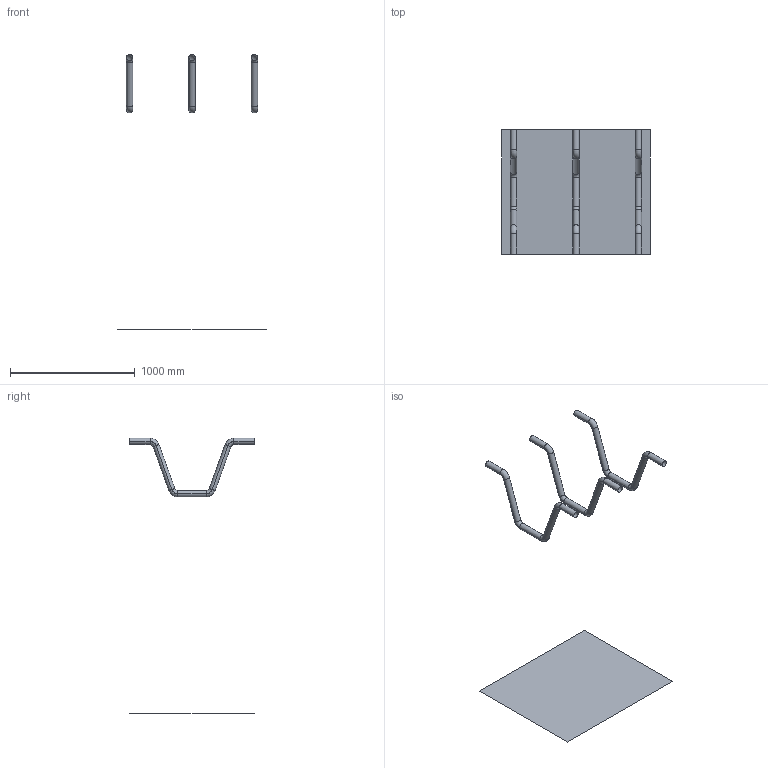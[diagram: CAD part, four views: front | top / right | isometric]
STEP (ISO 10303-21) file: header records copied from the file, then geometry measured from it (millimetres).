
FILE_DESCRIPTION(('CATIA V5 STEP Exchange'),'2;1');
FILE_NAME('C:\_Andres\UNIVERSIDAD\IQS\ASIGNATURAS\DAO\EXF\EXF-16172c\2inicio\Marra-Lopez_Llovet_Ej08_v19.stp','2017-03-05T21:54:53+00:00',('none'),('none'),'CATIA Version 5-6 Release 2014 SP1 HF18','CATIA V5 STEP AP203','none');
FILE_SCHEMA(('CONFIG_CONTROL_DESIGN'));
Length unit declared in the file: millimetre
Products named in the file (1): Marra-Lopez_Llovet_Ej08_v19
Bounding box: 1190 x 1000 x 2206 mm (x, y, z)
Surface area: 1922221.7 mm2 (no closed solid volume)
Topology: 0 solids, 4 shells, 55 faces, 118 edges, 64 vertices
Faces by surface type: cylinder 30, torus 24, plane 1
Entity records: 1283 total; most frequent: ORIENTED_EDGE 220, CARTESIAN_POINT 208, DIRECTION 168, EDGE_CURVE 118, AXIS2_PLACEMENT_3D 110, CIRCLE 84, VERTEX_POINT 64, ADVANCED_FACE 55
